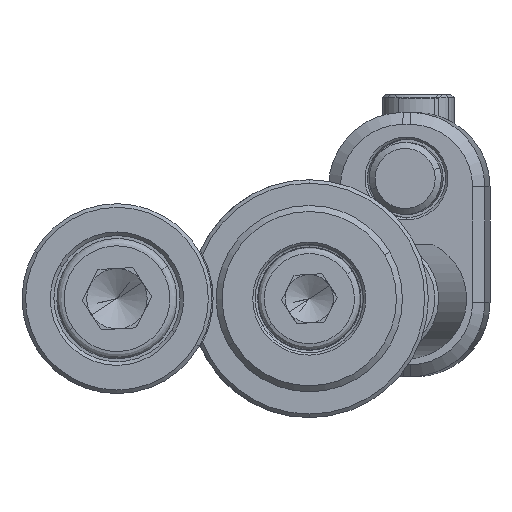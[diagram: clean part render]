
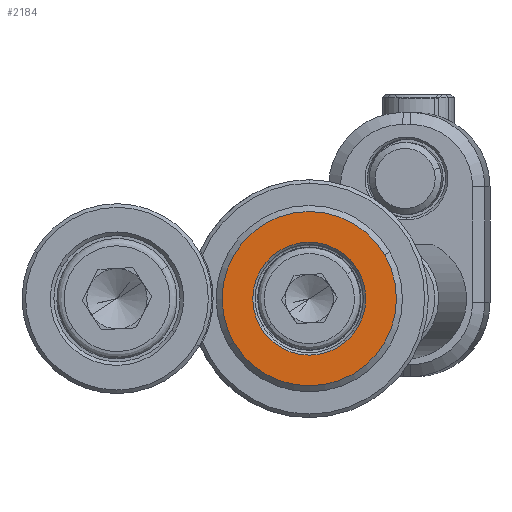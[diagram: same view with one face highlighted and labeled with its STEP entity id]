
A CAD part, front view. The second image highlights one B-rep face of the part: STEP entity #2184.
In plain terms, the highlighted planar face has unit normal (0, -1, 0).
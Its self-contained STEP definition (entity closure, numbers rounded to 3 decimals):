
#269 = AXIS2_PLACEMENT_3D ( 'NONE', #1925, #11652, #1777 ) ;
#274 = DIRECTION ( 'NONE',  ( -0.865, 0., -0.503 ) ) ;
#355 = DIRECTION ( 'NONE',  ( 0., -1., 0. ) ) ;
#424 = ORIENTED_EDGE ( 'NONE', *, *, #2162, .T. ) ;
#640 = FACE_BOUND ( 'NONE', #656, .T. ) ;
#656 = EDGE_LOOP ( 'NONE', ( #424, #6555 ) ) ;
#892 = CARTESIAN_POINT ( 'NONE',  ( -4.063, -4., -2.362 ) ) ;
#1616 = CARTESIAN_POINT ( 'NONE',  ( 0., -4., 0. ) ) ;
#1678 = CARTESIAN_POINT ( 'NONE',  ( 4.063, -4., 2.362 ) ) ;
#1777 = DIRECTION ( 'NONE',  ( -0.865, 0., -0.503 ) ) ;
#1925 = CARTESIAN_POINT ( 'NONE',  ( 2.261, -4., -3.891 ) ) ;
#2162 = EDGE_CURVE ( 'NONE', #13582, #13976, #4372, .T. ) ;
#2179 = AXIS2_PLACEMENT_3D ( 'NONE', #1616, #355, #9064 ) ;
#2184 = ADVANCED_FACE ( 'NONE', ( #640, #5148 ), #9744, .F. ) ;
#3056 = DIRECTION ( 'NONE',  ( 0., 1., 0. ) ) ;
#3527 = CIRCLE ( 'NONE', #2179, 7.25 ) ;
#4007 = AXIS2_PLACEMENT_3D ( 'NONE', #9091, #11454, #4741 ) ;
#4124 = CARTESIAN_POINT ( 'NONE',  ( 6.268, -4., 3.643 ) ) ;
#4196 = EDGE_CURVE ( 'NONE', #6194, #4384, #3527, .T. ) ;
#4372 = CIRCLE ( 'NONE', #11522, 4.7 ) ;
#4384 = VERTEX_POINT ( 'NONE', #4124 ) ;
#4522 = ORIENTED_EDGE ( 'NONE', *, *, #8031, .T. ) ;
#4741 = DIRECTION ( 'NONE',  ( -0.865, 0., -0.503 ) ) ;
#4824 = ORIENTED_EDGE ( 'NONE', *, *, #4196, .T. ) ;
#5148 = FACE_OUTER_BOUND ( 'NONE', #7378, .T. ) ;
#5373 = AXIS2_PLACEMENT_3D ( 'NONE', #9948, #6599, #274 ) ;
#6194 = VERTEX_POINT ( 'NONE', #13830 ) ;
#6555 = ORIENTED_EDGE ( 'NONE', *, *, #10244, .T. ) ;
#6599 = DIRECTION ( 'NONE',  ( 0., -1., 0. ) ) ;
#7378 = EDGE_LOOP ( 'NONE', ( #4824, #4522 ) ) ;
#8031 = EDGE_CURVE ( 'NONE', #4384, #6194, #10257, .T. ) ;
#9064 = DIRECTION ( 'NONE',  ( -0.865, 0., -0.503 ) ) ;
#9091 = CARTESIAN_POINT ( 'NONE',  ( 0., -4., 0. ) ) ;
#9744 = PLANE ( 'NONE',  #269 ) ;
#9948 = CARTESIAN_POINT ( 'NONE',  ( 0., -4., 0. ) ) ;
#10244 = EDGE_CURVE ( 'NONE', #13976, #13582, #11388, .T. ) ;
#10257 = CIRCLE ( 'NONE', #5373, 7.25 ) ;
#10734 = DIRECTION ( 'NONE',  ( -0.865, 0., -0.503 ) ) ;
#11388 = CIRCLE ( 'NONE', #4007, 4.7 ) ;
#11454 = DIRECTION ( 'NONE',  ( 0., 1., 0. ) ) ;
#11522 = AXIS2_PLACEMENT_3D ( 'NONE', #13801, #3056, #10734 ) ;
#11652 = DIRECTION ( 'NONE',  ( 0., 1., 0. ) ) ;
#13582 = VERTEX_POINT ( 'NONE', #1678 ) ;
#13801 = CARTESIAN_POINT ( 'NONE',  ( 0., -4., 0. ) ) ;
#13830 = CARTESIAN_POINT ( 'NONE',  ( -6.268, -4., -3.643 ) ) ;
#13976 = VERTEX_POINT ( 'NONE', #892 ) ;
